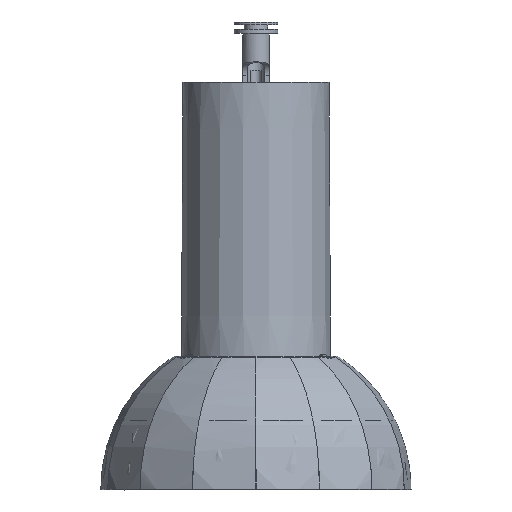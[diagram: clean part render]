
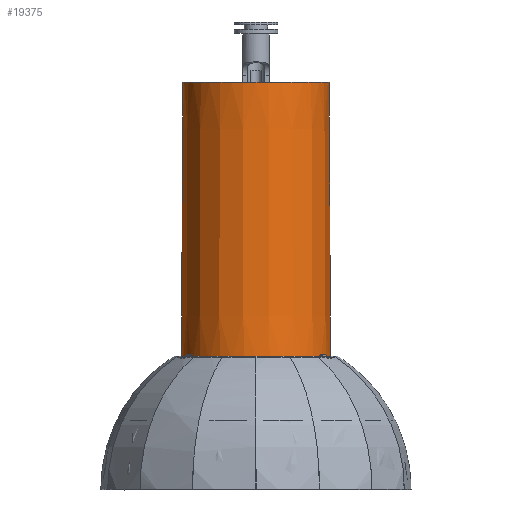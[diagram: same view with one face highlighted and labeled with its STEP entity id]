
A CAD part, left-side view. The second image highlights one B-rep face of the part: STEP entity #19375.
In plain terms, the highlighted conical face has half-angle 0.3 degrees and reference radius 42 mm.
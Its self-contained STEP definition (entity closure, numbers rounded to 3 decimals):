
#249=CONICAL_SURFACE('',#20689,42.,0.005);
#1488=B_SPLINE_CURVE_WITH_KNOTS('',3,(#80613,#80614,#80615,#80616,#80617,
#80618),.UNSPECIFIED.,.F.,.F.,(4,2,4),(0.076,0.081,
0.152),.UNSPECIFIED.);
#1489=B_SPLINE_CURVE_WITH_KNOTS('',3,(#80625,#80626,#80627,#80628,#80629,
#80630,#80631,#80632,#80633,#80634,#80635,#80636,#80637,#80638),
 .UNSPECIFIED.,.F.,.F.,(4,2,2,2,2,2,4),(0.,0.,
0.,0.,0.001,0.003,
0.006),.UNSPECIFIED.);
#1490=B_SPLINE_CURVE_WITH_KNOTS('',3,(#80641,#80642,#80643,#80644,#80645,
#80646),.UNSPECIFIED.,.F.,.F.,(4,2,4),(0.076,0.081,
0.152),.UNSPECIFIED.);
#2574=FACE_OUTER_BOUND('',#3702,.T.);
#3702=EDGE_LOOP('',(#14079,#14080,#14081,#14082,#14083,#14084,#14085,#14086,
#14087,#14088));
#4873=LINE('',#80620,#5853);
#4874=LINE('',#80621,#5854);
#4875=LINE('',#80623,#5855);
#4876=LINE('',#80640,#5856);
#5853=VECTOR('',#23090,10.);
#5854=VECTOR('',#23091,10.);
#5855=VECTOR('',#23092,1000.);
#5856=VECTOR('',#23093,10.);
#6597=CIRCLE('',#20648,41.869);
#6599=CIRCLE('',#20650,41.869);
#6621=CIRCLE('',#20690,41.046);
#7965=VERTEX_POINT('',#79709);
#7966=VERTEX_POINT('',#79710);
#7968=VERTEX_POINT('',#79714);
#8007=VERTEX_POINT('',#80609);
#8008=VERTEX_POINT('',#80610);
#8009=VERTEX_POINT('',#80612);
#8010=VERTEX_POINT('',#80619);
#8011=VERTEX_POINT('',#80622);
#8012=VERTEX_POINT('',#80624);
#8013=VERTEX_POINT('',#80639);
#10295=EDGE_CURVE('',#7965,#7966,#6597,.T.);
#10298=EDGE_CURVE('',#7966,#7968,#6599,.T.);
#10357=EDGE_CURVE('',#8007,#8008,#6621,.T.);
#10358=EDGE_CURVE('',#8007,#8009,#1488,.T.);
#10359=EDGE_CURVE('',#8009,#8010,#4873,.T.);
#10360=EDGE_CURVE('',#8010,#7965,#4874,.T.);
#10361=EDGE_CURVE('',#8011,#7968,#4875,.T.);
#10362=EDGE_CURVE('',#8011,#8012,#1489,.T.);
#10363=EDGE_CURVE('',#8012,#8013,#4876,.T.);
#10364=EDGE_CURVE('',#8008,#8013,#1490,.T.);
#14079=ORIENTED_EDGE('',*,*,#10357,.F.);
#14080=ORIENTED_EDGE('',*,*,#10358,.T.);
#14081=ORIENTED_EDGE('',*,*,#10359,.T.);
#14082=ORIENTED_EDGE('',*,*,#10360,.T.);
#14083=ORIENTED_EDGE('',*,*,#10295,.T.);
#14084=ORIENTED_EDGE('',*,*,#10298,.T.);
#14085=ORIENTED_EDGE('',*,*,#10361,.F.);
#14086=ORIENTED_EDGE('',*,*,#10362,.T.);
#14087=ORIENTED_EDGE('',*,*,#10363,.T.);
#14088=ORIENTED_EDGE('',*,*,#10364,.F.);
#19375=ADVANCED_FACE('',(#2574),#249,.T.);
#20648=AXIS2_PLACEMENT_3D('',#79711,#22999,#23000);
#20650=AXIS2_PLACEMENT_3D('',#79719,#23003,#23004);
#20689=AXIS2_PLACEMENT_3D('',#80608,#23086,#23087);
#20690=AXIS2_PLACEMENT_3D('',#80611,#23088,#23089);
#22999=DIRECTION('center_axis',(0.,0.,
1.));
#23000=DIRECTION('ref_axis',(-1.,0.,0.));
#23003=DIRECTION('center_axis',(0.,0.,
1.));
#23004=DIRECTION('ref_axis',(-1.,0.,0.));
#23086=DIRECTION('center_axis',(0.,0.,
-1.));
#23087=DIRECTION('ref_axis',(0.,1.,0.));
#23088=DIRECTION('center_axis',(0.,0.,
1.));
#23089=DIRECTION('ref_axis',(1.,0.,0.));
#23090=DIRECTION('',(0.,-0.005,-1.));
#23091=DIRECTION('',(0.,-0.005,-1.));
#23092=DIRECTION('',(0.,-0.005,-1.));
#23093=DIRECTION('',(0.,0.005,1.));
#79709=CARTESIAN_POINT('',(35.424,-288.404,112.896));
#79710=CARTESIAN_POINT('',(-15.445,-247.514,112.895));
#79711=CARTESIAN_POINT('Origin',(26.424,-247.514,112.895));
#79714=CARTESIAN_POINT('',(17.424,-288.404,112.896));
#79719=CARTESIAN_POINT('Origin',(26.424,-247.514,112.895));
#80608=CARTESIAN_POINT('Origin',(26.424,-247.514,87.934));
#80609=CARTESIAN_POINT('',(35.424,-287.561,270.187));
#80610=CARTESIAN_POINT('',(17.424,-287.561,270.187));
#80611=CARTESIAN_POINT('Origin',(26.424,-247.514,270.187));
#80612=CARTESIAN_POINT('',(35.424,-287.968,194.187));
#80613=CARTESIAN_POINT('Ctrl Pts',(35.424,-287.561,270.187));
#80614=CARTESIAN_POINT('Ctrl Pts',(35.424,-287.569,268.579));
#80615=CARTESIAN_POINT('Ctrl Pts',(35.424,-287.578,266.972));
#80616=CARTESIAN_POINT('Ctrl Pts',(35.424,-287.714,241.638));
#80617=CARTESIAN_POINT('Ctrl Pts',(35.424,-287.841,217.912));
#80618=CARTESIAN_POINT('Ctrl Pts',(35.424,-287.968,194.187));
#80619=CARTESIAN_POINT('',(35.424,-288.372,118.866));
#80620=CARTESIAN_POINT('',(35.424,-287.968,194.187));
#80621=CARTESIAN_POINT('',(35.424,-288.372,118.866));
#80622=CARTESIAN_POINT('',(17.424,-288.404,112.917));
#80623=CARTESIAN_POINT('',(17.424,-287.968,194.187));
#80624=CARTESIAN_POINT('',(17.424,-288.372,118.866));
#80625=CARTESIAN_POINT('Ctrl Pts',(17.424,-288.404,112.917));
#80626=CARTESIAN_POINT('Ctrl Pts',(17.426,-288.404,112.979));
#80627=CARTESIAN_POINT('Ctrl Pts',(17.427,-288.404,113.041));
#80628=CARTESIAN_POINT('Ctrl Pts',(17.429,-288.404,113.165));
#80629=CARTESIAN_POINT('Ctrl Pts',(17.432,-288.404,113.227));
#80630=CARTESIAN_POINT('Ctrl Pts',(17.429,-288.402,113.413));
#80631=CARTESIAN_POINT('Ctrl Pts',(17.428,-288.402,113.537));
#80632=CARTESIAN_POINT('Ctrl Pts',(17.426,-288.399,113.908));
#80633=CARTESIAN_POINT('Ctrl Pts',(17.426,-288.398,114.156));
#80634=CARTESIAN_POINT('Ctrl Pts',(17.425,-288.394,114.9));
#80635=CARTESIAN_POINT('Ctrl Pts',(17.425,-288.391,115.396));
#80636=CARTESIAN_POINT('Ctrl Pts',(17.425,-288.383,116.883));
#80637=CARTESIAN_POINT('Ctrl Pts',(17.424,-288.378,117.875));
#80638=CARTESIAN_POINT('Ctrl Pts',(17.424,-288.372,118.866));
#80639=CARTESIAN_POINT('',(17.424,-287.968,194.187));
#80640=CARTESIAN_POINT('',(17.424,-288.372,118.866));
#80641=CARTESIAN_POINT('Ctrl Pts',(17.424,-287.561,270.187));
#80642=CARTESIAN_POINT('Ctrl Pts',(17.424,-287.569,268.579));
#80643=CARTESIAN_POINT('Ctrl Pts',(17.424,-287.578,266.972));
#80644=CARTESIAN_POINT('Ctrl Pts',(17.424,-287.714,241.638));
#80645=CARTESIAN_POINT('Ctrl Pts',(17.424,-287.841,217.912));
#80646=CARTESIAN_POINT('Ctrl Pts',(17.424,-287.968,194.187));
